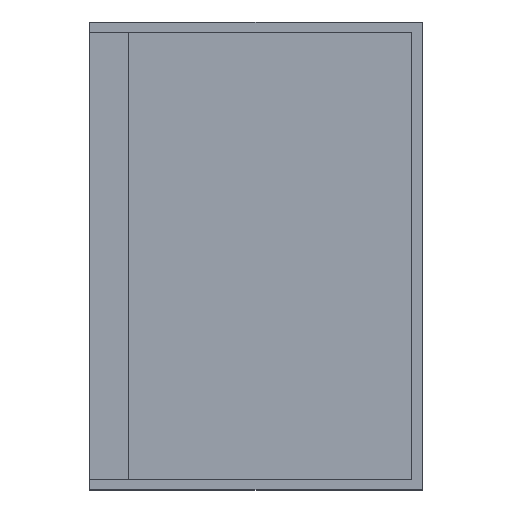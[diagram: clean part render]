
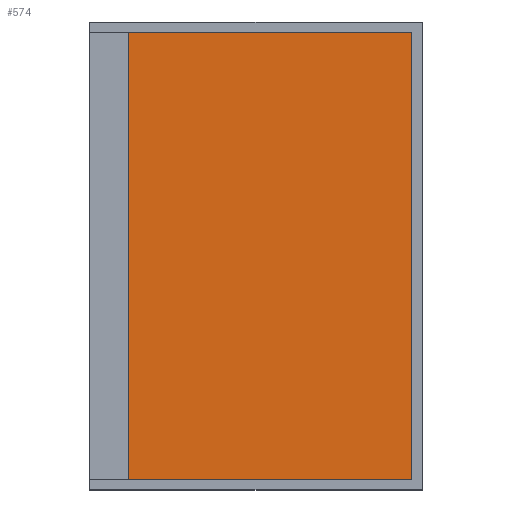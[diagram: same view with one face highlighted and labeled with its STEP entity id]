
A CAD part, top view. The second image highlights one B-rep face of the part: STEP entity #574.
In plain terms, the highlighted planar face has unit normal (0, 0, 1).
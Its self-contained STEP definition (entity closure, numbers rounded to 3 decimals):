
#212 = PLANE('',#213);
#213 = AXIS2_PLACEMENT_3D('',#214,#215,#216);
#214 = CARTESIAN_POINT('',(68.,77.4,17.));
#215 = DIRECTION('',(0.,1.,0.));
#216 = DIRECTION('',(0.,-0.,1.));
#268 = PLANE('',#269);
#269 = AXIS2_PLACEMENT_3D('',#270,#271,#272);
#270 = CARTESIAN_POINT('',(68.,-77.4,17.));
#271 = DIRECTION('',(0.,1.,0.));
#272 = DIRECTION('',(0.,-0.,1.));
#304 = EDGE_CURVE('',#305,#307,#309,.T.);
#305 = VERTEX_POINT('',#306);
#306 = CARTESIAN_POINT('',(81.5,-77.4,17.));
#307 = VERTEX_POINT('',#308);
#308 = CARTESIAN_POINT('',(179.4,-77.4,17.));
#309 = SURFACE_CURVE('',#310,(#314,#321),.PCURVE_S1.);
#310 = LINE('',#311,#312);
#311 = CARTESIAN_POINT('',(68.,-77.4,17.));
#312 = VECTOR('',#313,1.);
#313 = DIRECTION('',(1.,0.,0.));
#314 = PCURVE('',#268,#315);
#315 = DEFINITIONAL_REPRESENTATION('',(#316),#320);
#316 = LINE('',#317,#318);
#317 = CARTESIAN_POINT('',(0.,0.));
#318 = VECTOR('',#319,1.);
#319 = DIRECTION('',(0.,1.));
#320 = ( GEOMETRIC_REPRESENTATION_CONTEXT(2) 
PARAMETRIC_REPRESENTATION_CONTEXT() REPRESENTATION_CONTEXT('2D SPACE',''
  ) );
#321 = PCURVE('',#322,#327);
#322 = PLANE('',#323);
#323 = AXIS2_PLACEMENT_3D('',#324,#325,#326);
#324 = CARTESIAN_POINT('',(68.,-81.,17.));
#325 = DIRECTION('',(0.,0.,1.));
#326 = DIRECTION('',(1.,0.,-0.));
#327 = DEFINITIONAL_REPRESENTATION('',(#328),#332);
#328 = LINE('',#329,#330);
#329 = CARTESIAN_POINT('',(0.,3.6));
#330 = VECTOR('',#331,1.);
#331 = DIRECTION('',(1.,0.));
#332 = ( GEOMETRIC_REPRESENTATION_CONTEXT(2) 
PARAMETRIC_REPRESENTATION_CONTEXT() REPRESENTATION_CONTEXT('2D SPACE',''
  ) );
#350 = PLANE('',#351);
#351 = AXIS2_PLACEMENT_3D('',#352,#353,#354);
#352 = CARTESIAN_POINT('',(81.5,-81.,16.8));
#353 = DIRECTION('',(1.,0.,0.));
#354 = DIRECTION('',(0.,0.,1.));
#421 = PLANE('',#422);
#422 = AXIS2_PLACEMENT_3D('',#423,#424,#425);
#423 = CARTESIAN_POINT('',(179.4,-81.,17.));
#424 = DIRECTION('',(1.,0.,0.));
#425 = DIRECTION('',(0.,0.,1.));
#460 = EDGE_CURVE('',#305,#461,#463,.T.);
#461 = VERTEX_POINT('',#462);
#462 = CARTESIAN_POINT('',(81.5,77.4,17.));
#463 = SURFACE_CURVE('',#464,(#468,#475),.PCURVE_S1.);
#464 = LINE('',#465,#466);
#465 = CARTESIAN_POINT('',(81.5,-81.,17.));
#466 = VECTOR('',#467,1.);
#467 = DIRECTION('',(0.,1.,0.));
#468 = PCURVE('',#350,#469);
#469 = DEFINITIONAL_REPRESENTATION('',(#470),#474);
#470 = LINE('',#471,#472);
#471 = CARTESIAN_POINT('',(0.2,0.));
#472 = VECTOR('',#473,1.);
#473 = DIRECTION('',(0.,-1.));
#474 = ( GEOMETRIC_REPRESENTATION_CONTEXT(2) 
PARAMETRIC_REPRESENTATION_CONTEXT() REPRESENTATION_CONTEXT('2D SPACE',''
  ) );
#475 = PCURVE('',#322,#476);
#476 = DEFINITIONAL_REPRESENTATION('',(#477),#481);
#477 = LINE('',#478,#479);
#478 = CARTESIAN_POINT('',(13.5,0.));
#479 = VECTOR('',#480,1.);
#480 = DIRECTION('',(0.,1.));
#481 = ( GEOMETRIC_REPRESENTATION_CONTEXT(2) 
PARAMETRIC_REPRESENTATION_CONTEXT() REPRESENTATION_CONTEXT('2D SPACE',''
  ) );
#531 = EDGE_CURVE('',#307,#532,#534,.T.);
#532 = VERTEX_POINT('',#533);
#533 = CARTESIAN_POINT('',(179.4,77.4,17.));
#534 = SURFACE_CURVE('',#535,(#539,#546),.PCURVE_S1.);
#535 = LINE('',#536,#537);
#536 = CARTESIAN_POINT('',(179.4,-81.,17.));
#537 = VECTOR('',#538,1.);
#538 = DIRECTION('',(0.,1.,0.));
#539 = PCURVE('',#421,#540);
#540 = DEFINITIONAL_REPRESENTATION('',(#541),#545);
#541 = LINE('',#542,#543);
#542 = CARTESIAN_POINT('',(0.,0.));
#543 = VECTOR('',#544,1.);
#544 = DIRECTION('',(0.,-1.));
#545 = ( GEOMETRIC_REPRESENTATION_CONTEXT(2) 
PARAMETRIC_REPRESENTATION_CONTEXT() REPRESENTATION_CONTEXT('2D SPACE',''
  ) );
#546 = PCURVE('',#322,#547);
#547 = DEFINITIONAL_REPRESENTATION('',(#548),#552);
#548 = LINE('',#549,#550);
#549 = CARTESIAN_POINT('',(111.4,0.));
#550 = VECTOR('',#551,1.);
#551 = DIRECTION('',(0.,1.));
#552 = ( GEOMETRIC_REPRESENTATION_CONTEXT(2) 
PARAMETRIC_REPRESENTATION_CONTEXT() REPRESENTATION_CONTEXT('2D SPACE',''
  ) );
#574 = ADVANCED_FACE('',(#575),#322,.T.);
#575 = FACE_BOUND('',#576,.T.);
#576 = EDGE_LOOP('',(#577,#578,#579,#580));
#577 = ORIENTED_EDGE('',*,*,#460,.F.);
#578 = ORIENTED_EDGE('',*,*,#304,.T.);
#579 = ORIENTED_EDGE('',*,*,#531,.T.);
#580 = ORIENTED_EDGE('',*,*,#581,.F.);
#581 = EDGE_CURVE('',#461,#532,#582,.T.);
#582 = SURFACE_CURVE('',#583,(#587,#594),.PCURVE_S1.);
#583 = LINE('',#584,#585);
#584 = CARTESIAN_POINT('',(68.,77.4,17.));
#585 = VECTOR('',#586,1.);
#586 = DIRECTION('',(1.,0.,0.));
#587 = PCURVE('',#322,#588);
#588 = DEFINITIONAL_REPRESENTATION('',(#589),#593);
#589 = LINE('',#590,#591);
#590 = CARTESIAN_POINT('',(0.,158.4));
#591 = VECTOR('',#592,1.);
#592 = DIRECTION('',(1.,0.));
#593 = ( GEOMETRIC_REPRESENTATION_CONTEXT(2) 
PARAMETRIC_REPRESENTATION_CONTEXT() REPRESENTATION_CONTEXT('2D SPACE',''
  ) );
#594 = PCURVE('',#212,#595);
#595 = DEFINITIONAL_REPRESENTATION('',(#596),#600);
#596 = LINE('',#597,#598);
#597 = CARTESIAN_POINT('',(0.,0.));
#598 = VECTOR('',#599,1.);
#599 = DIRECTION('',(0.,1.));
#600 = ( GEOMETRIC_REPRESENTATION_CONTEXT(2) 
PARAMETRIC_REPRESENTATION_CONTEXT() REPRESENTATION_CONTEXT('2D SPACE',''
  ) );
